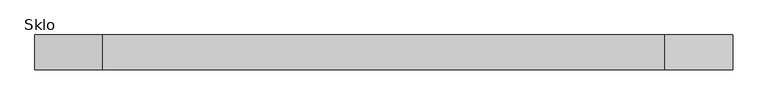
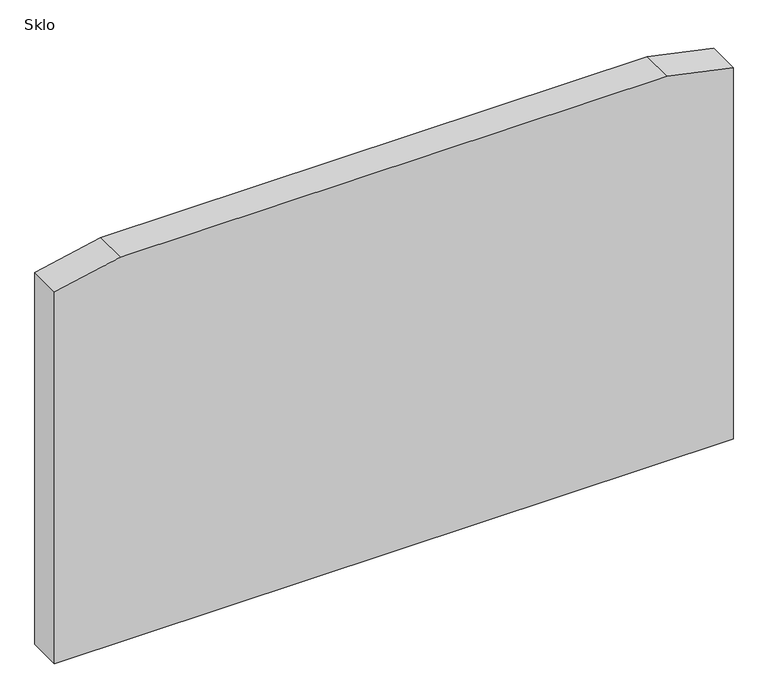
"""IFC4 building model written with IfcOpenShell, lengths in millimetres: plate geometry, Systémový panel : Sklo."""

from ifc_helpers import new_model, si_unit, frame, origin, place, context, project, spatial, polyline, outline, extrude, source, transform, mapped, element, save


def sklo_655bdac8(model_context):
    return source(origin(), model_context, "Body", "SweptSolid", [
        extrude(outline(polyline([(0.0, -1000.0), (0.0, 1000.0), (1158.6300932, 1000.0), (1200.0, 805.3698906), (1200.0, -805.3698906), (1158.6300932, -1000.0), (0.0, -1000.0)])), frame((0.0, 50.0, 0.0), z_axis=(0.0, 1.0, 0.0), x_axis=(0.0, 0.0, 1.0)), (0.0, 0.0, 1.0), 100.0),
    ])


if __name__ == "__main__":
    model = new_model("IFC4")
    model_context = context("Model", 3, world=origin())
    ifc_project = project(units=[si_unit("LENGTHUNIT", "METRE", prefix="MILLI")], contexts=[model_context])
    site = spatial("IfcSite", under=ifc_project)
    building = spatial("IfcBuilding", under=site)
    placement = place(None, origin())
    sklo_shape = sklo_655bdac8(model_context)
    element("IfcPlate", 1, ObjectType="Systémový panel : Sklo", at=placement, inside=building, context=model_context, shape_type="MappedRepresentation", body=[
        mapped(sklo_shape, transform((0.0, 0.0, 0.0), x_axis=(1.0, 0.0, 0.0), y_axis=(0.0, 1.0, 0.0), z_axis=(0.0, 0.0, 1.0))),
    ])
    save(model, "model.ifc")
